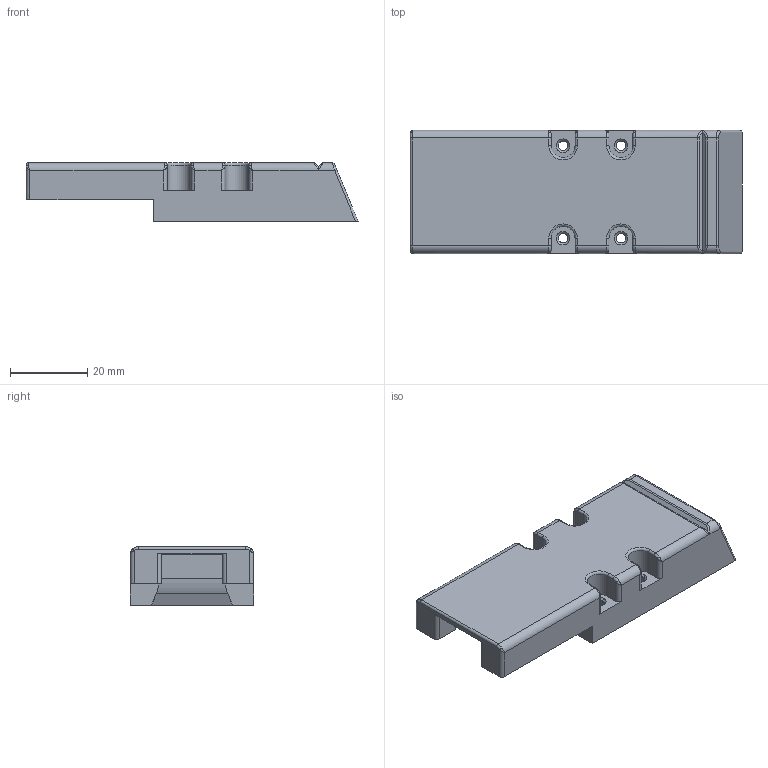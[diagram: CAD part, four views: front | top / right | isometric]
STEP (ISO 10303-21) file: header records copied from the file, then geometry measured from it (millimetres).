
FILE_DESCRIPTION (( 'STEP AP214' ), '1' );
FILE_NAME ('Pico Case Back.STEP', '2021-05-07T20:49:17', ( '' ), ( '' ), 'SwSTEP 2.0', 'SolidWorks 2020', '' );
FILE_SCHEMA (( 'AUTOMOTIVE_DESIGN' ));
Length unit declared in the file: millimetre
Products named in the file (1): Pico Case Back
Bounding box: 86.13 x 32 x 15.1 mm (x, y, z)
Volume: 18589.9 mm3; surface area: 10364.8 mm2
Topology: 1 solids, 1 shells, 151 faces, 381 edges, 222 vertices
Faces by surface type: cylinder 55, plane 42, cone 24, bspline 16, torus 14
Entity records: 4901 total; most frequent: CARTESIAN_POINT 1365, DIRECTION 743, ORIENTED_EDGE 742, EDGE_CURVE 371, AXIS2_PLACEMENT_3D 280, VERTEX_POINT 222, LINE 183, VECTOR 183
